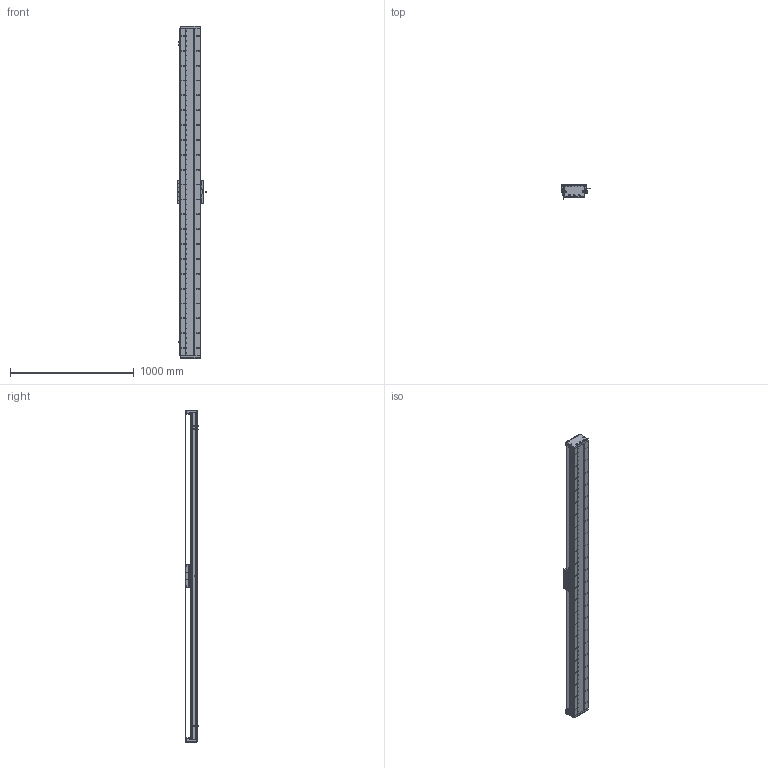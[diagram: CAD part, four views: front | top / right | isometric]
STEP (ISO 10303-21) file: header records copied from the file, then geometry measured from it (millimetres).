
FILE_DESCRIPTION (( 'STEP AP203' ), '1' );
FILE_NAME ('DA-C165-C2-T400-C010-0.2 直线电机.STEP', '2023-05-11T07:47:52', ( '微软用户' ), ( '微软中国' ), 'SwSTEP 2.0', 'SolidWorks 2019', '' );
FILE_SCHEMA (( 'CONFIG_CONTROL_DESIGN' ));
Length unit declared in the file: millimetre
Products named in the file (18): 复件 DA165-GD-DG-H-00 端盖^复件 CU165钢带组件_DA-C165-C2-T-C010-0.2-N 直线电机; IU-CU165-L-00 菁釱_L2640; 复件 DMA-010-0.2 读数头^DA-C165-C2-T-C010-0.2-N 直线电机; 复件 DA165-GDYK-00 钢带压块^复件 CU165钢带组件_DA-C165-C2-T-C010-0.2-N 直线电机; 复件 XD-U-02L 磁栅尺^DA-C165-C2-T-C010-0.2-N 直线电机_T; 葩璃 CKM01-W075-TRL^DA-C165-C2-T-C010-0.2-N 眻盄萇儂; 复件 DA95-HXJ-00 缓冲橡胶^DA-C165-C2-T-C010-0.2-N 直线电机; DA-C165-C2-T400-C010-0.2 眻盄萇儂; 复件 六角薄螺母 M3^DA-C165-C2-T-C010-0.2-N 直线电机_GB_FASTENER_NUT_STNAB M3-C; 珨极趙賑雄怢啣wf-C2; 复件 DA165-GD-1860-002-00 钢带盖板^复件 CU165钢带组件_DA-C165-C2-T-C010-0.2-N 直线电机; 葩璃 PM-T45^DA-C165-C2-T-C010-0.2-N 眻盄萇儂; 葩璃 DA95-GT-T-00^IU-CU165-L 菁釱絳寢_T; 复件 DA165-GYP-00 光电感应片^DA-C165-C2-T-C010-0.2-N 直线电机; 复件 DA165-GDLK-00 钢带拉块^复件 CU165钢带组件_DA-C165-C2-T-C010-0.2-N 直线电机; IU-CU165-L 菁釱絳寢; 复件 CU165钢带组件^DA-C165-C2-T-C010-0.2-N 直线电机; 复件 CKM02-W075-C1C2-TP-3.0 一体电机-C2^DA-C165-C2-T-C010-0.2-N 直线电机
Assembly tree (33 placements, depth 3):
  DA-C165-C2-T400-C010-0.2 眻盄萇儂
    IU-CU165-L 菁釱絳寢
      IU-CU165-L-00 菁釱_L2640
      葩璃 DA95-GT-T-00^IU-CU165-L 菁釱絳寢_T  x4
    复件 XD-U-02L 磁栅尺^DA-C165-C2-T-C010-0.2-N 直线电机_T
    葩璃 PM-T45^DA-C165-C2-T-C010-0.2-N 眻盄萇儂  x3
    葩璃 CKM01-W075-TRL^DA-C165-C2-T-C010-0.2-N 眻盄萇儂
    复件 CU165钢带组件^DA-C165-C2-T-C010-0.2-N 直线电机
      复件 DA165-GD-DG-H-00 端盖^复件 CU165钢带组件_DA-C165-C2-T-C010-0.2-N 直线电机  x2
      复件 DA165-GDYK-00 钢带压块^复件 CU165钢带组件_DA-C165-C2-T-C010-0.2-N 直线电机  x2
      复件 DA165-GD-1860-002-00 钢带盖板^复件 CU165钢带组件_DA-C165-C2-T-C010-0.2-N 直线电机
      复件 DA165-GDLK-00 钢带拉块^复件 CU165钢带组件_DA-C165-C2-T-C010-0.2-N 直线电机  x2
    复件 DA95-HXJ-00 缓冲橡胶^DA-C165-C2-T-C010-0.2-N 直线电机  x4
    复件 DA165-GYP-00 光电感应片^DA-C165-C2-T-C010-0.2-N 直线电机
    复件 DMA-010-0.2 读数头^DA-C165-C2-T-C010-0.2-N 直线电机
    复件 CKM02-W075-C1C2-TP-3.0 一体电机-C2^DA-C165-C2-T-C010-0.2-N 直线电机
    复件 六角薄螺母 M3^DA-C165-C2-T-C010-0.2-N 直线电机_GB_FASTENER_NUT_STNAB M3-C  x6
    珨极趙賑雄怢啣wf-C2
Bounding box: 233 x 111.45 x 2680 mm (x, y, z)
Volume: 14866649.6 mm3; surface area: 4481209.4 mm2
Topology: 70 solids, 70 shells, 3907 faces, 11489 edges, 7343 vertices
Faces by surface type: cylinder 2325, plane 1102, cone 430, torus 46, sphere 4
Entity records: 132221 total; most frequent: CARTESIAN_POINT 35879, ORIENTED_EDGE 20150, DIRECTION 19363, EDGE_CURVE 10075, AXIS2_PLACEMENT_3D 7405, VERTEX_POINT 6579, EDGE_LOOP 4602, LINE 4553
